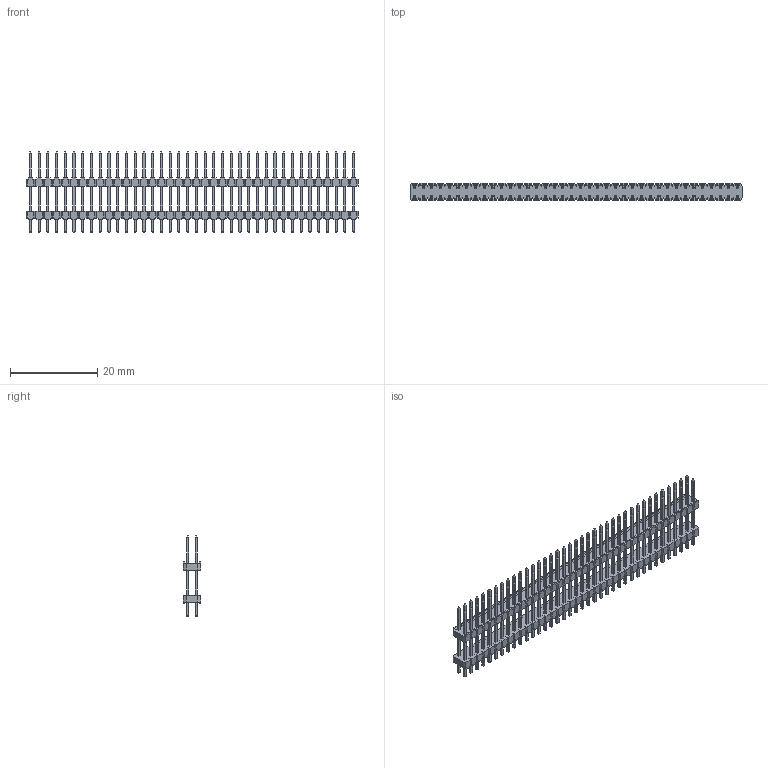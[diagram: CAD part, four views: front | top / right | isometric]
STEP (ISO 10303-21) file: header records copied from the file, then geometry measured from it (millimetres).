
FILE_DESCRIPTION(/* description */ (''),/* implementation_level */ '2;1');
FILE_NAME(/* name */ '951476-8061906-AR',/* time_stamp */ '2007-03-14T11:15:40+01:00',/* author */ (''),/* organization */ (''),/* preprocessor_version */ 'ST-DEVELOPER v9',/* originating_system */ 'UGS - NX 4.0',/* authorisation */ '');
FILE_SCHEMA (('AUTOMOTIVE_DESIGN { 1 0 10303 214 1 1 1 1 }'));
Products named in the file (1): 951476-8061906-AR
Bounding box: 76 x 4 x 18.4 mm (x, y, z)
Volume: 1240.2 mm3; surface area: 4278.3 mm2
Topology: 1 solids, 1 shells, 2744 faces, 7156 edges, 4568 vertices
Faces by surface type: plane 2440, cylinder 304
Entity records: 82124 total; most frequent: CARTESIAN_POINT 14469, ORIENTED_EDGE 14312, DIRECTION 12950, EDGE_CURVE 7156, LINE 6852, VECTOR 6852, VERTEX_POINT 4568, AXIS2_PLACEMENT_3D 3049
